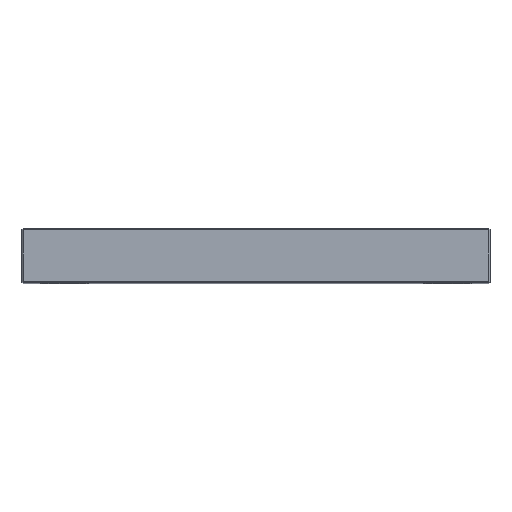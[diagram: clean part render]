
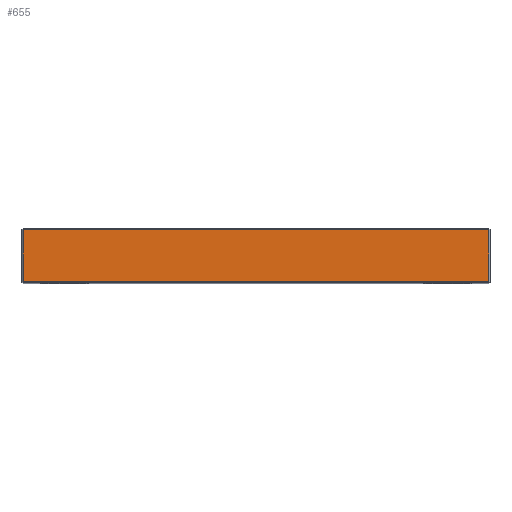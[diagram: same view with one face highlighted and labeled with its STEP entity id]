
A CAD part, top view. The second image highlights one B-rep face of the part: STEP entity #655.
In plain terms, the highlighted planar face has unit normal (0, 0, 1).
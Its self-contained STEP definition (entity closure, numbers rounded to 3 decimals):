
#77 = LINE ( 'NONE', #2116, #2150 ) ;
#133 = CARTESIAN_POINT ( 'NONE',  ( 198., 46., 223. ) ) ;
#188 = DIRECTION ( 'NONE',  ( 0., 0., -1. ) ) ;
#192 = PLANE ( 'NONE',  #520 ) ;
#204 = CARTESIAN_POINT ( 'NONE',  ( -198., 45., 223. ) ) ;
#337 = EDGE_CURVE ( 'NONE', #2214, #491, #751, .T. ) ;
#370 = EDGE_CURVE ( 'NONE', #2162, #2214, #77, .T. ) ;
#391 = DIRECTION ( 'NONE',  ( -1., 0., 0. ) ) ;
#400 = DIRECTION ( 'NONE',  ( 0., 1., 0. ) ) ;
#439 = EDGE_CURVE ( 'NONE', #2299, #2162, #1573, .T. ) ;
#442 = DIRECTION ( 'NONE',  ( 0., -1., 0. ) ) ;
#459 = EDGE_LOOP ( 'NONE', ( #2098, #777, #2124, #2147 ) ) ;
#463 = EDGE_CURVE ( 'NONE', #491, #2299, #1391, .T. ) ;
#464 = CARTESIAN_POINT ( 'NONE',  ( 197., 46., 223. ) ) ;
#491 = VERTEX_POINT ( 'NONE', #2031 ) ;
#520 = AXIS2_PLACEMENT_3D ( 'NONE', #133, #188, #391 ) ;
#633 = VECTOR ( 'NONE', #400, 1000. ) ;
#655 = ADVANCED_FACE ( 'NONE', ( #1308 ), #192, .F. ) ;
#751 = LINE ( 'NONE', #464, #633 ) ;
#777 = ORIENTED_EDGE ( 'NONE', *, *, #439, .T. ) ;
#1048 = DIRECTION ( 'NONE',  ( -1., 0., 0. ) ) ;
#1142 = DIRECTION ( 'NONE',  ( 1., 0., 0. ) ) ;
#1169 = VECTOR ( 'NONE', #1048, 1000. ) ;
#1177 = CARTESIAN_POINT ( 'NONE',  ( -197., 45., 223. ) ) ;
#1308 = FACE_OUTER_BOUND ( 'NONE', #459, .T. ) ;
#1361 = VECTOR ( 'NONE', #442, 1000. ) ;
#1391 = LINE ( 'NONE', #204, #1169 ) ;
#1440 = CARTESIAN_POINT ( 'NONE',  ( -197., 1., 223. ) ) ;
#1573 = LINE ( 'NONE', #1595, #1361 ) ;
#1595 = CARTESIAN_POINT ( 'NONE',  ( -197., 46., 223. ) ) ;
#2031 = CARTESIAN_POINT ( 'NONE',  ( 197., 45., 223. ) ) ;
#2098 = ORIENTED_EDGE ( 'NONE', *, *, #463, .T. ) ;
#2116 = CARTESIAN_POINT ( 'NONE',  ( 198., 1., 223. ) ) ;
#2124 = ORIENTED_EDGE ( 'NONE', *, *, #370, .T. ) ;
#2147 = ORIENTED_EDGE ( 'NONE', *, *, #337, .T. ) ;
#2150 = VECTOR ( 'NONE', #1142, 1000. ) ;
#2162 = VERTEX_POINT ( 'NONE', #1440 ) ;
#2184 = CARTESIAN_POINT ( 'NONE',  ( 197., 1., 223. ) ) ;
#2214 = VERTEX_POINT ( 'NONE', #2184 ) ;
#2299 = VERTEX_POINT ( 'NONE', #1177 ) ;
